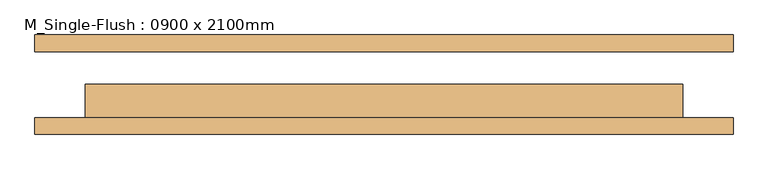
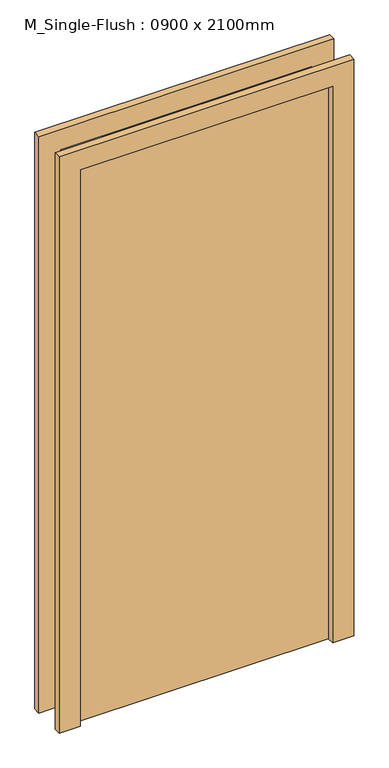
"""IFC4 building model written with IfcOpenShell, lengths in millimetres: door geometry, M_Single-Flush : 0900 x 2100mm."""

from ifc_helpers import new_model, si_unit, frame, origin, origin_with_axes, place, context, project, spatial, polyline, outline, extrude, source, transform, mapped, element, save


def m_single_flush_0900_x_2100mm_ea70ebeb(model_context):
    return source(origin(), model_context, "Body", "SweptSolid", [
        extrude(outline(polyline([(450.0, 1.0), (450.0, -50.0), (-450.0, -50.0), (-450.0, 1.0), (450.0, 1.0)])), origin_with_axes(), (0.0, 0.0, 1.0), 2100.0),
        extrude(outline(polyline([(2176.0, -526.0), (0.0, -526.0), (0.0, -450.0), (2100.0, -450.0), (2100.0, 450.0), (0.0, 450.0), (0.0, 526.0), (2176.0, 526.0), (2176.0, -526.0)])), frame((0.0, -75.0, 0.0), z_axis=(0.0, 1.0, 0.0), x_axis=(0.0, 0.0, 1.0)), (0.0, 0.0, 1.0), 25.0),
        extrude(outline(polyline([(2176.0, 526.0), (2176.0, -526.0), (0.0, -526.0), (0.0, -450.0), (2100.0, -450.0), (2100.0, 450.0), (0.0, 450.0), (0.0, 526.0), (2176.0, 526.0)])), frame((0.0, 50.0, 0.0), z_axis=(0.0, 1.0, 0.0), x_axis=(0.0, 0.0, 1.0)), (0.0, 0.0, 1.0), 25.0),
    ])


if __name__ == "__main__":
    model = new_model("IFC4")
    model_context = context("Model", 3, world=origin())
    ifc_project = project(units=[si_unit("LENGTHUNIT", "METRE", prefix="MILLI")], contexts=[model_context])
    site = spatial("IfcSite", under=ifc_project)
    building = spatial("IfcBuilding", under=site)
    placement = place(None, origin())
    m_single_flush_0900_x_2100mm_shape = m_single_flush_0900_x_2100mm_ea70ebeb(model_context)
    element("IfcDoor", 1, ObjectType="M_Single-Flush : 0900 x 2100mm", at=placement, inside=building, context=model_context, shape_type="MappedRepresentation", body=[
        mapped(m_single_flush_0900_x_2100mm_shape, transform((0.0, 0.0, 0.0), x_axis=(1.0, 0.0, 0.0), y_axis=(0.0, 1.0, 0.0), z_axis=(0.0, 0.0, 1.0))),
    ])
    save(model, "model.ifc")
